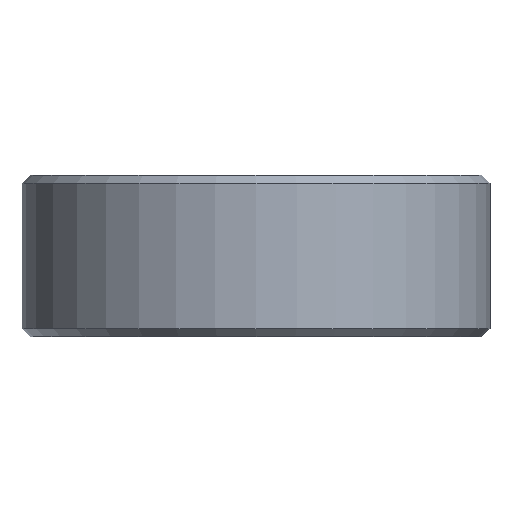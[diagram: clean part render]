
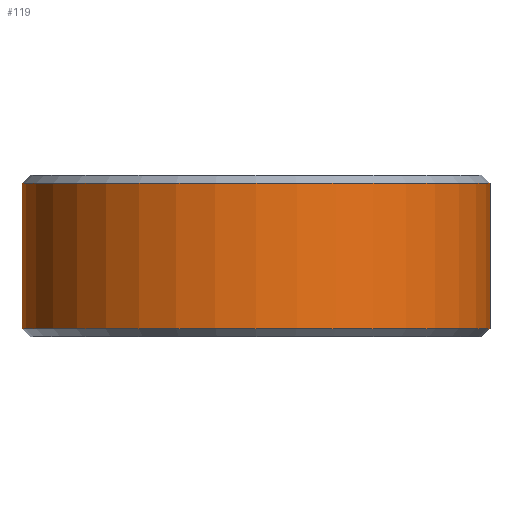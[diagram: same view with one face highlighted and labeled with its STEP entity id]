
A CAD part, front view. The second image highlights one B-rep face of the part: STEP entity #119.
In plain terms, the highlighted cylindrical face has radius 14.5 mm (diameter 29 mm), a full revolution.
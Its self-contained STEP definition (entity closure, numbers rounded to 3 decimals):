
#20=CYLINDRICAL_SURFACE('',#148,14.5);
#27=FACE_OUTER_BOUND('',#37,.T.);
#37=EDGE_LOOP('',(#101,#102,#103,#104));
#43=LINE('',#219,#49);
#49=VECTOR('',#187,14.5);
#57=CIRCLE('',#147,14.5);
#58=CIRCLE('',#149,14.5);
#65=VERTEX_POINT('',#213);
#66=VERTEX_POINT('',#217);
#77=EDGE_CURVE('',#65,#65,#57,.T.);
#78=EDGE_CURVE('',#66,#66,#58,.T.);
#79=EDGE_CURVE('',#66,#65,#43,.T.);
#101=ORIENTED_EDGE('',*,*,#78,.F.);
#102=ORIENTED_EDGE('',*,*,#79,.T.);
#103=ORIENTED_EDGE('',*,*,#77,.F.);
#104=ORIENTED_EDGE('',*,*,#79,.F.);
#119=ADVANCED_FACE('',(#27),#20,.T.);
#147=AXIS2_PLACEMENT_3D('',#215,#181,#182);
#148=AXIS2_PLACEMENT_3D('',#216,#183,#184);
#149=AXIS2_PLACEMENT_3D('',#218,#185,#186);
#181=DIRECTION('center_axis',(0.,0.,-1.));
#182=DIRECTION('ref_axis',(-1.,0.,0.));
#183=DIRECTION('center_axis',(0.,0.,1.));
#184=DIRECTION('ref_axis',(-1.,0.,0.));
#185=DIRECTION('center_axis',(0.,0.,1.));
#186=DIRECTION('ref_axis',(-1.,0.,0.));
#187=DIRECTION('',(0.,0.,-1.));
#213=CARTESIAN_POINT('',(14.5,0.,0.5));
#215=CARTESIAN_POINT('Origin',(0.,0.,0.5));
#216=CARTESIAN_POINT('Origin',(0.,0.,0.));
#217=CARTESIAN_POINT('',(14.5,0.,9.5));
#218=CARTESIAN_POINT('Origin',(0.,0.,9.5));
#219=CARTESIAN_POINT('',(14.5,0.,0.));
